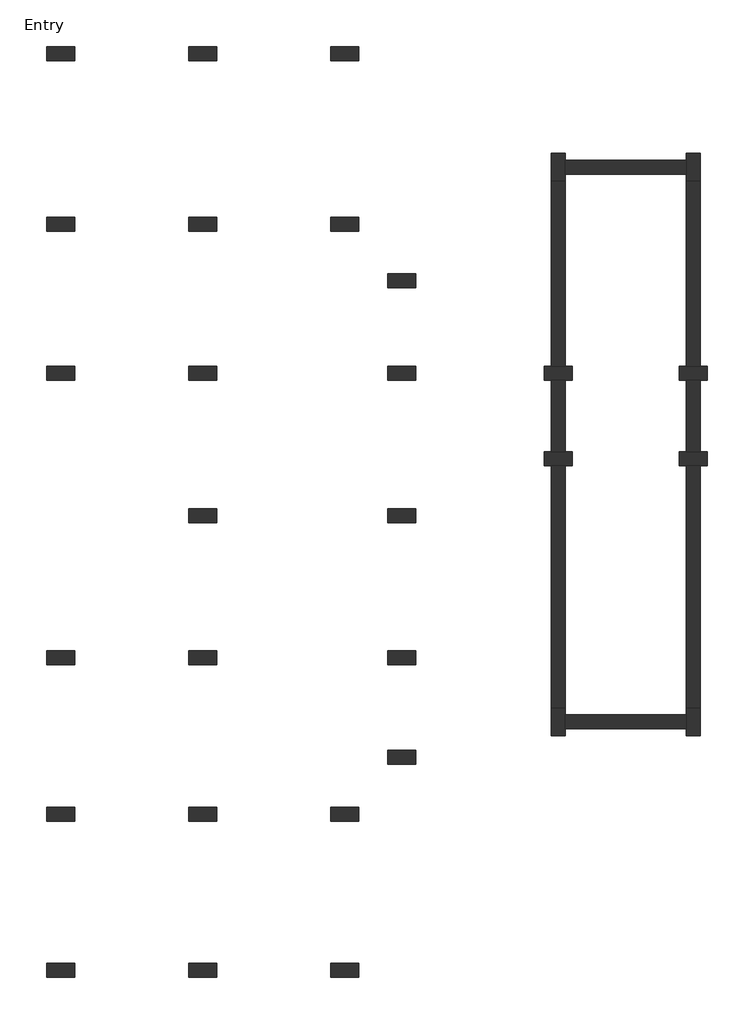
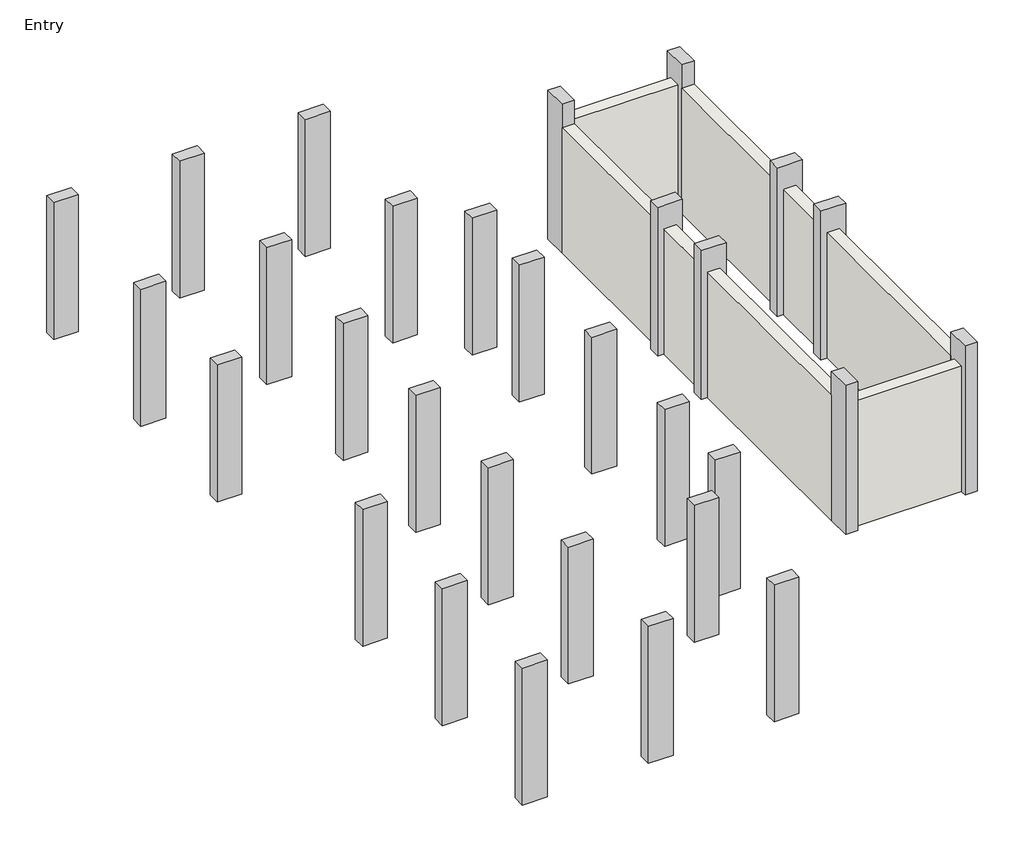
# One storey: 30 columns, 8 walls.
"""IFC4 building model written with IfcOpenShell, lengths in millimetres."""

from ifc_helpers import new_model, si_unit, origin, origin_with_axes, place, context, project, spatial, polyline, outline, extrude, faceted_brep, transform, mapped, element, save
from components import m_concrete_rectangular_column_300_x_600mm_f1ddfff3

model = new_model("IFC4")

# Units and contexts
model_context = context("Model", 3, world=origin())
ifc_project = project(units=[si_unit("LENGTHUNIT", "METRE", prefix="MILLI")], contexts=[model_context])

# Site, building, storey
site = spatial("IfcSite", under=ifc_project)
building = spatial("IfcBuilding", under=site)
storey = spatial("IfcBuildingStorey", under=building, Name="Entry", Elevation=0.0)

# Columns
placement = place(None, origin())
element("IfcColumn", 1, ObjectType="M_Concrete-Rectangular-Column : 300 x 600mm", at=placement, inside=storey, context=model_context, shape_type="Brep", body=[
    faceted_brep([(-3644.7526929, 6449.19569, 0.0), (-3494.7526929, 6449.19569, 0.0), (-3194.7526929, 6449.19569, 0.0), (-3044.7526929, 6449.19569, 0.0), (-3044.7526929, 6149.19569, 0.0), (-3194.7526929, 6149.19569, 0.0), (-3494.7526929, 6149.19569, 0.0), (-3644.7526929, 6149.19569, 0.0), (-3644.7526929, 6449.19569, 3810.0), (-3044.7526929, 6449.19569, 3810.0), (-3044.7526929, 6149.19569, 3810.0), (-3644.7526929, 6149.19569, 3810.0)], [[[0, 1, 2, 3, 4, 5, 6, 7]], [[8, 9, 3, 2, 1, 0]], [[9, 10, 4, 3]], [[10, 11, 7, 6, 5, 4]], [[11, 8, 0, 7]], [[8, 11, 10, 9]]]),
])
element("IfcColumn", 2, ObjectType="M_Concrete-Rectangular-Column : 300 x 600mm", at=placement, inside=storey, context=model_context, shape_type="Brep", body=[
    faceted_brep([(-749.1526929, 6449.19569, 0.0), (-599.1526929, 6449.19569, 0.0), (-299.1526929, 6449.19569, 0.0), (-149.1526929, 6449.19569, 0.0), (-149.1526929, 6149.19569, 0.0), (-299.1526929, 6149.19569, 0.0), (-599.1526929, 6149.19569, 0.0), (-749.1526929, 6149.19569, 0.0), (-749.1526929, 6449.19569, 3810.0), (-149.1526929, 6449.19569, 3810.0), (-149.1526929, 6149.19569, 3810.0), (-749.1526929, 6149.19569, 3810.0)], [[[0, 1, 2, 3, 4, 5, 6, 7]], [[8, 9, 3, 2, 1, 0]], [[9, 10, 4, 3]], [[10, 11, 7, 6, 5, 4]], [[11, 8, 0, 7]], [[8, 11, 10, 9]]]),
])
element("IfcColumn", 3, ObjectType="M_Concrete-Rectangular-Column : 300 x 600mm", at=placement, inside=storey, context=model_context, shape_type="Brep", body=[
    faceted_brep([(-3644.7526929, 4620.39569, 0.0), (-3494.7526929, 4620.39569, 0.0), (-3194.7526929, 4620.39569, 0.0), (-3044.7526929, 4620.39569, 0.0), (-3044.7526929, 4320.39569, 0.0), (-3194.7526929, 4320.39569, 0.0), (-3494.7526929, 4320.39569, 0.0), (-3644.7526929, 4320.39569, 0.0), (-3644.7526929, 4620.39569, 3810.0), (-3044.7526929, 4620.39569, 3810.0), (-3044.7526929, 4320.39569, 3810.0), (-3644.7526929, 4320.39569, 3810.0)], [[[0, 1, 2, 3, 4, 5, 6, 7]], [[8, 9, 3, 2, 1, 0]], [[9, 10, 4, 3]], [[10, 11, 7, 6, 5, 4]], [[11, 8, 0, 7]], [[8, 11, 10, 9]]]),
])
element("IfcColumn", 4, ObjectType="M_Concrete-Rectangular-Column : 300 x 600mm", at=placement, inside=storey, context=model_context, shape_type="Brep", body=[
    faceted_brep([(-749.1526929, 4620.39569, 0.0), (-599.1526929, 4620.39569, 0.0), (-299.1526929, 4620.39569, 0.0), (-149.1526929, 4620.39569, 0.0), (-149.1526929, 4320.39569, 0.0), (-299.1526929, 4320.39569, 0.0), (-599.1526929, 4320.39569, 0.0), (-749.1526929, 4320.39569, 0.0), (-749.1526929, 4620.39569, 3810.0), (-149.1526929, 4620.39569, 3810.0), (-149.1526929, 4320.39569, 3810.0), (-749.1526929, 4320.39569, 3810.0)], [[[0, 1, 2, 3, 4, 5, 6, 7]], [[8, 9, 3, 2, 1, 0]], [[9, 10, 4, 3]], [[10, 11, 7, 6, 5, 4]], [[11, 8, 0, 7]], [[8, 11, 10, 9]]]),
])
element("IfcColumn", 5, ObjectType="M_Concrete-Rectangular-Column : 300 x 600mm", at=placement, inside=storey, context=model_context, shape_type="Brep", body=[
    faceted_brep([(-3494.7526929, 10418.79569, 0.0), (-3494.7526929, 11018.79569, 0.0), (-3194.7526929, 11018.79569, 0.0), (-3194.7526929, 10868.79569, 0.0), (-3194.7526929, 10568.79569, 0.0), (-3194.7526929, 10418.79569, 0.0), (-3494.7526929, 10418.79569, 3810.0), (-3494.7526929, 11018.79569, 3810.0), (-3494.7526929, 10418.79569, 3210.0), (-3194.7526929, 11018.79569, 3810.0), (-3194.7526929, 10418.79569, 3810.0), (-3194.7526929, 10418.79569, 3210.0)], [[[0, 1, 2, 3, 4, 5]], [[6, 7, 1, 0, 8]], [[7, 9, 2, 1]], [[9, 10, 11, 5, 4, 3, 2]], [[10, 6, 8, 0, 5, 11]], [[6, 10, 9, 7]]]),
])
element("IfcColumn", 6, ObjectType="M_Concrete-Rectangular-Column : 300 x 600mm", at=placement, inside=storey, context=model_context, shape_type="Brep", body=[
    faceted_brep([(-599.1526929, 10418.79569, 0.0), (-599.1526929, 10568.79569, 0.0), (-599.1526929, 10868.79569, 0.0), (-599.1526929, 11018.79569, 0.0), (-299.1526929, 11018.79569, 0.0), (-299.1526929, 10418.79569, 0.0), (-599.1526929, 10418.79569, 3810.0), (-599.1526929, 11018.79569, 3810.0), (-599.1526929, 10418.79569, 3210.0), (-299.1526929, 11018.79569, 3810.0), (-299.1526929, 10418.79569, 3810.0), (-299.1526929, 10418.79569, 3210.0)], [[[0, 1, 2, 3, 4, 5]], [[6, 7, 3, 2, 1, 0, 8]], [[7, 9, 4, 3]], [[9, 10, 11, 5, 4]], [[10, 6, 8, 0, 5, 11]], [[6, 10, 9, 7]]]),
])
element("IfcColumn", 7, ObjectType="M_Concrete-Rectangular-Column : 300 x 600mm", at=placement, inside=storey, context=model_context, shape_type="Brep", body=[
    faceted_brep([(-3494.7526929, -1468.40431, 0.0), (-3494.7526929, -868.40431, 0.0), (-3194.7526929, -868.40431, 0.0), (-3194.7526929, -1018.40431, 0.0), (-3194.7526929, -1318.40431, 0.0), (-3194.7526929, -1468.40431, 0.0), (-3494.7526929, -1468.40431, 3810.0), (-3494.7526929, -868.40431, 3810.0), (-3494.7526929, -868.40431, 3210.0), (-3194.7526929, -868.40431, 3810.0), (-3194.7526929, -868.40431, 3210.0), (-3194.7526929, -1468.40431, 3810.0)], [[[0, 1, 2, 3, 4, 5]], [[6, 7, 8, 1, 0]], [[7, 9, 10, 2, 1, 8]], [[9, 11, 5, 4, 3, 2, 10]], [[11, 6, 0, 5]], [[6, 11, 9, 7]]]),
])
element("IfcColumn", 8, ObjectType="M_Concrete-Rectangular-Column : 300 x 600mm", at=placement, inside=storey, context=model_context, shape_type="Brep", body=[
    faceted_brep([(-599.1526929, -1468.40431, 0.0), (-599.1526929, -1318.40431, 0.0), (-599.1526929, -1018.40431, 0.0), (-599.1526929, -868.40431, 0.0), (-299.1526929, -868.40431, 0.0), (-299.1526929, -1468.40431, 0.0), (-599.1526929, -1468.40431, 3810.0), (-599.1526929, -868.40431, 3810.0), (-599.1526929, -868.40431, 3210.0), (-299.1526929, -868.40431, 3810.0), (-299.1526929, -868.40431, 3210.0), (-299.1526929, -1468.40431, 3810.0)], [[[0, 1, 2, 3, 4, 5]], [[6, 7, 8, 3, 2, 1, 0]], [[7, 9, 10, 4, 3, 8]], [[9, 11, 5, 4, 10]], [[11, 6, 0, 5]], [[6, 11, 9, 7]]]),
])
m_concrete_rectangular_column_300_x_600mm_shape = m_concrete_rectangular_column_300_x_600mm_f1ddfff3(model_context)
element("IfcColumn", 9, ObjectType="M_Concrete-Rectangular-Column : 300 x 600mm", at=placement, inside=storey, context=model_context, shape_type="MappedRepresentation", body=[
    mapped(m_concrete_rectangular_column_300_x_600mm_shape, transform((-14012.7526929, 13157.19569, 0.0), x_axis=(0.0, 1.0, 0.0), y_axis=(-1.0, 0.0, 0.0), z_axis=(0.0, 0.0, 1.0))),
])
element("IfcColumn", 10, ObjectType="M_Concrete-Rectangular-Column : 300 x 600mm", at=placement, inside=storey, context=model_context, shape_type="MappedRepresentation", body=[
    mapped(m_concrete_rectangular_column_300_x_600mm_shape, transform((-10964.7526929, 13157.19569, 0.0), x_axis=(0.0, 1.0, 0.0), y_axis=(-1.0, 0.0, 0.0), z_axis=(0.0, 0.0, 1.0))),
])
element("IfcColumn", 11, ObjectType="M_Concrete-Rectangular-Column : 300 x 600mm", at=placement, inside=storey, context=model_context, shape_type="MappedRepresentation", body=[
    mapped(m_concrete_rectangular_column_300_x_600mm_shape, transform((-7916.7526929, 13157.19569, 0.0), x_axis=(0.0, 1.0, 0.0), y_axis=(-1.0, 0.0, 0.0), z_axis=(0.0, 0.0, 1.0))),
])
element("IfcColumn", 12, ObjectType="M_Concrete-Rectangular-Column : 300 x 600mm", at=placement, inside=storey, context=model_context, shape_type="MappedRepresentation", body=[
    mapped(m_concrete_rectangular_column_300_x_600mm_shape, transform((-14012.7526929, 9499.59569, 0.0), x_axis=(0.0, 1.0, 0.0), y_axis=(-1.0, 0.0, 0.0), z_axis=(0.0, 0.0, 1.0))),
])
element("IfcColumn", 13, ObjectType="M_Concrete-Rectangular-Column : 300 x 600mm", at=placement, inside=storey, context=model_context, shape_type="MappedRepresentation", body=[
    mapped(m_concrete_rectangular_column_300_x_600mm_shape, transform((-10964.7526929, 9499.59569, 0.0), x_axis=(0.0, 1.0, 0.0), y_axis=(-1.0, 0.0, 0.0), z_axis=(0.0, 0.0, 1.0))),
])
element("IfcColumn", 14, ObjectType="M_Concrete-Rectangular-Column : 300 x 600mm", at=placement, inside=storey, context=model_context, shape_type="MappedRepresentation", body=[
    mapped(m_concrete_rectangular_column_300_x_600mm_shape, transform((-7916.7526929, 9499.59569, 0.0), x_axis=(0.0, 1.0, 0.0), y_axis=(-1.0, 0.0, 0.0), z_axis=(0.0, 0.0, 1.0))),
])
element("IfcColumn", 15, ObjectType="M_Concrete-Rectangular-Column : 300 x 600mm", at=placement, inside=storey, context=model_context, shape_type="MappedRepresentation", body=[
    mapped(m_concrete_rectangular_column_300_x_600mm_shape, transform((-6697.5526929, 8280.39569, 0.0), x_axis=(0.0, 1.0, 0.0), y_axis=(-1.0, 0.0, 0.0), z_axis=(0.0, 0.0, 1.0))),
])
element("IfcColumn", 16, ObjectType="M_Concrete-Rectangular-Column : 300 x 600mm", at=placement, inside=storey, context=model_context, shape_type="MappedRepresentation", body=[
    mapped(m_concrete_rectangular_column_300_x_600mm_shape, transform((-6697.5526929, 6299.19569, 0.0), x_axis=(0.0, 1.0, 0.0), y_axis=(-1.0, 0.0, 0.0), z_axis=(0.0, 0.0, 1.0))),
])
element("IfcColumn", 17, ObjectType="M_Concrete-Rectangular-Column : 300 x 600mm", at=placement, inside=storey, context=model_context, shape_type="MappedRepresentation", body=[
    mapped(m_concrete_rectangular_column_300_x_600mm_shape, transform((-10964.7526929, 6299.19569, 0.0), x_axis=(0.0, 1.0, 0.0), y_axis=(-1.0, 0.0, 0.0), z_axis=(0.0, 0.0, 1.0))),
])
element("IfcColumn", 18, ObjectType="M_Concrete-Rectangular-Column : 300 x 600mm", at=placement, inside=storey, context=model_context, shape_type="MappedRepresentation", body=[
    mapped(m_concrete_rectangular_column_300_x_600mm_shape, transform((-14012.7526929, 6299.19569, 0.0), x_axis=(0.0, 1.0, 0.0), y_axis=(-1.0, 0.0, 0.0), z_axis=(0.0, 0.0, 1.0))),
])
element("IfcColumn", 19, ObjectType="M_Concrete-Rectangular-Column : 300 x 600mm", at=placement, inside=storey, context=model_context, shape_type="MappedRepresentation", body=[
    mapped(m_concrete_rectangular_column_300_x_600mm_shape, transform((-6697.5526929, 3251.19569, 0.0), x_axis=(0.0, 1.0, 0.0), y_axis=(-1.0, 0.0, 0.0), z_axis=(0.0, 0.0, 1.0))),
])
element("IfcColumn", 20, ObjectType="M_Concrete-Rectangular-Column : 300 x 600mm", at=placement, inside=storey, context=model_context, shape_type="MappedRepresentation", body=[
    mapped(m_concrete_rectangular_column_300_x_600mm_shape, transform((-10964.7526929, 3251.19569, 0.0), x_axis=(0.0, 1.0, 0.0), y_axis=(-1.0, 0.0, 0.0), z_axis=(0.0, 0.0, 1.0))),
])
element("IfcColumn", 21, ObjectType="M_Concrete-Rectangular-Column : 300 x 600mm", at=placement, inside=storey, context=model_context, shape_type="MappedRepresentation", body=[
    mapped(m_concrete_rectangular_column_300_x_600mm_shape, transform((-14012.7526929, 203.19569, 0.0), x_axis=(0.0, 1.0, 0.0), y_axis=(-1.0, 0.0, 0.0), z_axis=(0.0, 0.0, 1.0))),
])
element("IfcColumn", 22, ObjectType="M_Concrete-Rectangular-Column : 300 x 600mm", at=placement, inside=storey, context=model_context, shape_type="MappedRepresentation", body=[
    mapped(m_concrete_rectangular_column_300_x_600mm_shape, transform((-10964.7526929, 203.19569, 0.0), x_axis=(0.0, 1.0, 0.0), y_axis=(-1.0, 0.0, 0.0), z_axis=(0.0, 0.0, 1.0))),
])
element("IfcColumn", 23, ObjectType="M_Concrete-Rectangular-Column : 300 x 600mm", at=placement, inside=storey, context=model_context, shape_type="MappedRepresentation", body=[
    mapped(m_concrete_rectangular_column_300_x_600mm_shape, transform((-6697.5526929, 203.19569, 0.0), x_axis=(0.0, 1.0, 0.0), y_axis=(-1.0, 0.0, 0.0), z_axis=(0.0, 0.0, 1.0))),
])
element("IfcColumn", 24, ObjectType="M_Concrete-Rectangular-Column : 300 x 600mm", at=placement, inside=storey, context=model_context, shape_type="MappedRepresentation", body=[
    mapped(m_concrete_rectangular_column_300_x_600mm_shape, transform((-6697.5526929, -1930.40431, 0.0), x_axis=(0.0, 1.0, 0.0), y_axis=(-1.0, 0.0, 0.0), z_axis=(0.0, 0.0, 1.0))),
])
element("IfcColumn", 25, ObjectType="M_Concrete-Rectangular-Column : 300 x 600mm", at=placement, inside=storey, context=model_context, shape_type="MappedRepresentation", body=[
    mapped(m_concrete_rectangular_column_300_x_600mm_shape, transform((-14012.7526929, -3149.60431, 0.0), x_axis=(0.0, 1.0, 0.0), y_axis=(-1.0, 0.0, 0.0), z_axis=(0.0, 0.0, 1.0))),
])
element("IfcColumn", 26, ObjectType="M_Concrete-Rectangular-Column : 300 x 600mm", at=placement, inside=storey, context=model_context, shape_type="MappedRepresentation", body=[
    mapped(m_concrete_rectangular_column_300_x_600mm_shape, transform((-10964.7526929, -3149.60431, 0.0), x_axis=(0.0, 1.0, 0.0), y_axis=(-1.0, 0.0, 0.0), z_axis=(0.0, 0.0, 1.0))),
])
element("IfcColumn", 27, ObjectType="M_Concrete-Rectangular-Column : 300 x 600mm", at=placement, inside=storey, context=model_context, shape_type="MappedRepresentation", body=[
    mapped(m_concrete_rectangular_column_300_x_600mm_shape, transform((-7916.7526929, -3149.60431, 0.0), x_axis=(0.0, 1.0, 0.0), y_axis=(-1.0, 0.0, 0.0), z_axis=(0.0, 0.0, 1.0))),
])
element("IfcColumn", 28, ObjectType="M_Concrete-Rectangular-Column : 300 x 600mm", at=placement, inside=storey, context=model_context, shape_type="MappedRepresentation", body=[
    mapped(m_concrete_rectangular_column_300_x_600mm_shape, transform((-14012.7526929, -6502.40431, 0.0), x_axis=(0.0, 1.0, 0.0), y_axis=(-1.0, 0.0, 0.0), z_axis=(0.0, 0.0, 1.0))),
])
element("IfcColumn", 29, ObjectType="M_Concrete-Rectangular-Column : 300 x 600mm", at=placement, inside=storey, context=model_context, shape_type="MappedRepresentation", body=[
    mapped(m_concrete_rectangular_column_300_x_600mm_shape, transform((-10964.7526929, -6502.40431, 0.0), x_axis=(0.0, 1.0, 0.0), y_axis=(-1.0, 0.0, 0.0), z_axis=(0.0, 0.0, 1.0))),
])
element("IfcColumn", 30, ObjectType="M_Concrete-Rectangular-Column : 300 x 600mm", at=placement, inside=storey, context=model_context, shape_type="MappedRepresentation", body=[
    mapped(m_concrete_rectangular_column_300_x_600mm_shape, transform((-7916.7526929, -6502.40431, 0.0), x_axis=(0.0, 1.0, 0.0), y_axis=(-1.0, 0.0, 0.0), z_axis=(0.0, 0.0, 1.0))),
])

# Walls
element("IfcWall", 31, ObjectType="Core-Shaft - 300mm Concrete", at=placement, inside=storey, context=model_context, shape_type="SweptSolid", body=[
    extrude(outline(polyline([(-599.1526929, 10568.79569), (-3194.7526929, 10568.79569), (-3194.7526929, 10868.79569), (-599.1526929, 10868.79569), (-599.1526929, 10568.79569)])), origin_with_axes(), (0.0, 0.0, 1.0), 3210.0),
])
element("IfcWall", 32, ObjectType="Core-Shaft - 300mm Concrete", at=placement, inside=storey, context=model_context, shape_type="SweptSolid", body=[
    extrude(outline(polyline([(-599.1526929, 6449.19569), (-599.1526929, 10418.79569), (-299.1526929, 10418.79569), (-299.1526929, 6449.19569), (-599.1526929, 6449.19569)])), origin_with_axes(), (0.0, 0.0, 1.0), 3210.0),
])
element("IfcWall", 33, ObjectType="Core-Shaft - 300mm Concrete", at=placement, inside=storey, context=model_context, shape_type="SweptSolid", body=[
    extrude(outline(polyline([(-599.1526929, 4620.39569), (-599.1526929, 6149.19569), (-299.1526929, 6149.19569), (-299.1526929, 4620.39569), (-599.1526929, 4620.39569)])), origin_with_axes(), (0.0, 0.0, 1.0), 3210.0),
])
element("IfcWall", 34, ObjectType="Core-Shaft - 300mm Concrete", at=placement, inside=storey, context=model_context, shape_type="SweptSolid", body=[
    extrude(outline(polyline([(-599.1526929, -868.40431), (-599.1526929, 4320.39569), (-299.1526929, 4320.39569), (-299.1526929, -868.40431), (-599.1526929, -868.40431)])), origin_with_axes(), (0.0, 0.0, 1.0), 3210.0),
])
element("IfcWall", 35, ObjectType="Core-Shaft - 300mm Concrete", at=placement, inside=storey, context=model_context, shape_type="SweptSolid", body=[
    extrude(outline(polyline([(-3194.7526929, -1018.40431), (-599.1526929, -1018.40431), (-599.1526929, -1318.40431), (-3194.7526929, -1318.40431), (-3194.7526929, -1018.40431)])), origin_with_axes(), (0.0, 0.0, 1.0), 3210.0),
])
element("IfcWall", 36, ObjectType="Core-Shaft - 300mm Concrete", at=placement, inside=storey, context=model_context, shape_type="SweptSolid", body=[
    extrude(outline(polyline([(-3194.7526929, 4320.39569), (-3194.7526929, -868.40431), (-3494.7526929, -868.40431), (-3494.7526929, 4320.39569), (-3194.7526929, 4320.39569)])), origin_with_axes(), (0.0, 0.0, 1.0), 3210.0),
])
element("IfcWall", 37, ObjectType="Core-Shaft - 300mm Concrete", at=placement, inside=storey, context=model_context, shape_type="SweptSolid", body=[
    extrude(outline(polyline([(-3194.7526929, 6149.19569), (-3194.7526929, 4620.39569), (-3494.7526929, 4620.39569), (-3494.7526929, 6149.19569), (-3194.7526929, 6149.19569)])), origin_with_axes(), (0.0, 0.0, 1.0), 3210.0),
])
element("IfcWall", 38, ObjectType="Core-Shaft - 300mm Concrete", at=placement, inside=storey, context=model_context, shape_type="SweptSolid", body=[
    extrude(outline(polyline([(-3194.7526929, 10418.79569), (-3194.7526929, 6449.19569), (-3494.7526929, 6449.19569), (-3494.7526929, 10418.79569), (-3194.7526929, 10418.79569)])), origin_with_axes(), (0.0, 0.0, 1.0), 3210.0),
])

save(model, "model.ifc")
